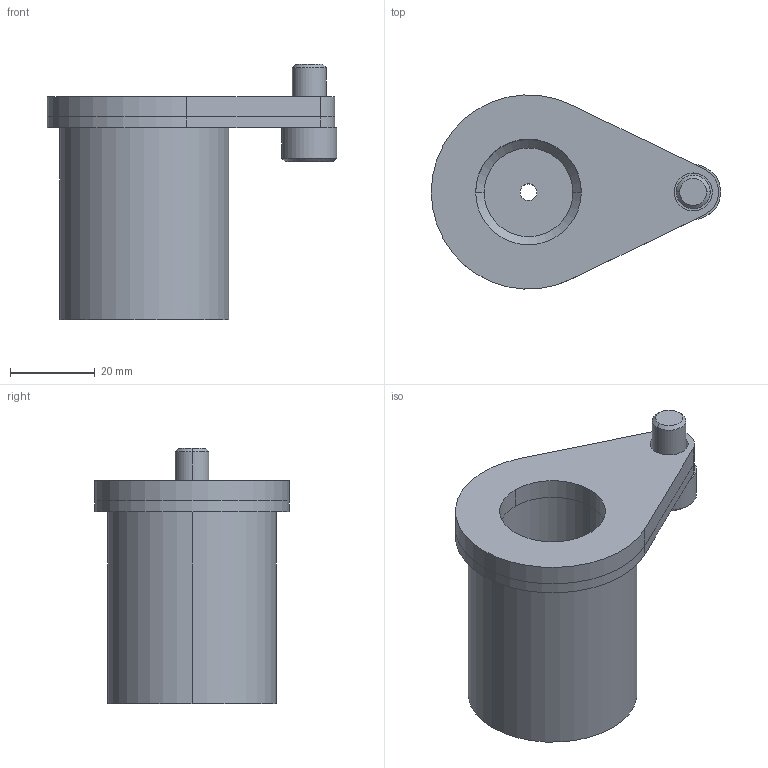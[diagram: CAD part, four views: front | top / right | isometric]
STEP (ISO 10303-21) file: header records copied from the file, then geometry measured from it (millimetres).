
FILE_DESCRIPTION(/* description */ (''),/* implementation_level */ '2;1');
FILE_NAME(/* name */ '3d_pqsp25-48_02947_r00.stp',/* time_stamp */ '2011-01-10T14:11:42+09:00',/* author */ ('MISUMI'),/* organization */ (''),/* preprocessor_version */ 'ST-DEVELOPER v11',/* originating_system */ 'UGS - NX 5.0',/* authorisation */ '');
FILE_SCHEMA (('CONFIG_CONTROL_DESIGN'));
Length unit declared in the file: millimetre
Products named in the file (1): 3d_pqsp25-48_02947_r00
Bounding box: 68.5 x 45.93 x 60.4 mm (x, y, z)
Volume: 51491.4 mm3; surface area: 19774.1 mm2
Topology: 4 solids, 4 shells, 51 faces, 120 edges, 80 vertices
Faces by surface type: plane 21, cylinder 20, cone 10
Entity records: 1594 total; most frequent: DIRECTION 284, CARTESIAN_POINT 252, ORIENTED_EDGE 240, EDGE_CURVE 120, AXIS2_PLACEMENT_3D 112, VERTEX_POINT 80, EDGE_LOOP 64, LINE 60
